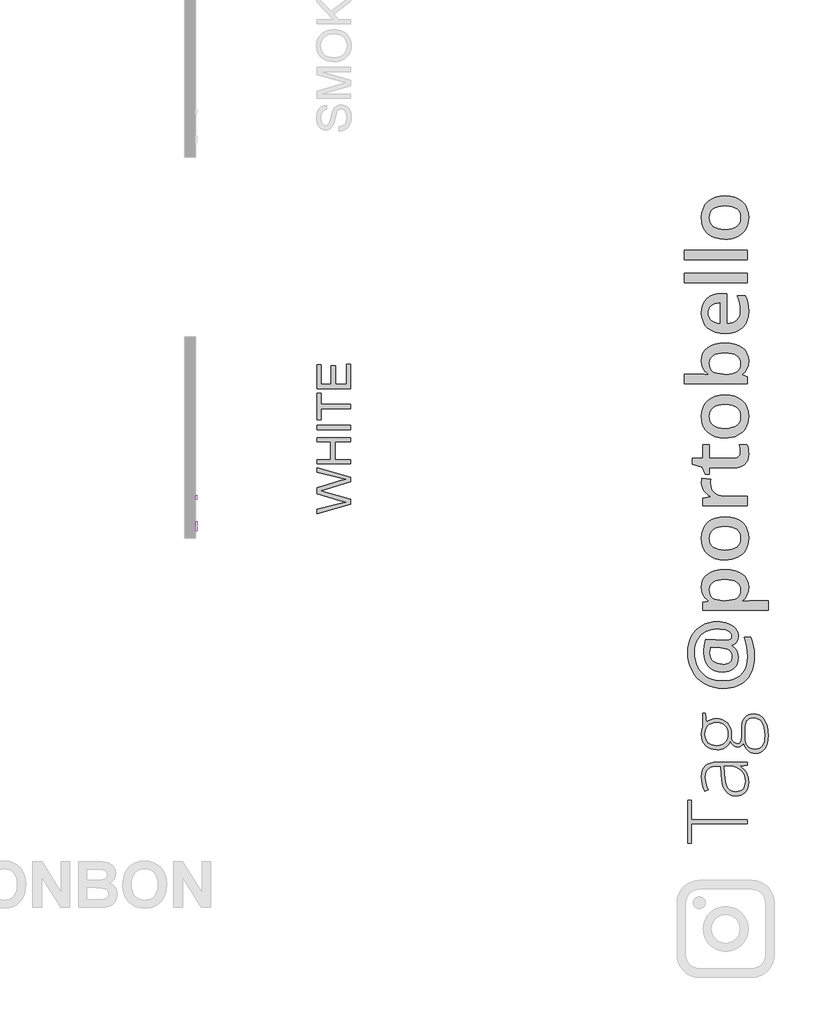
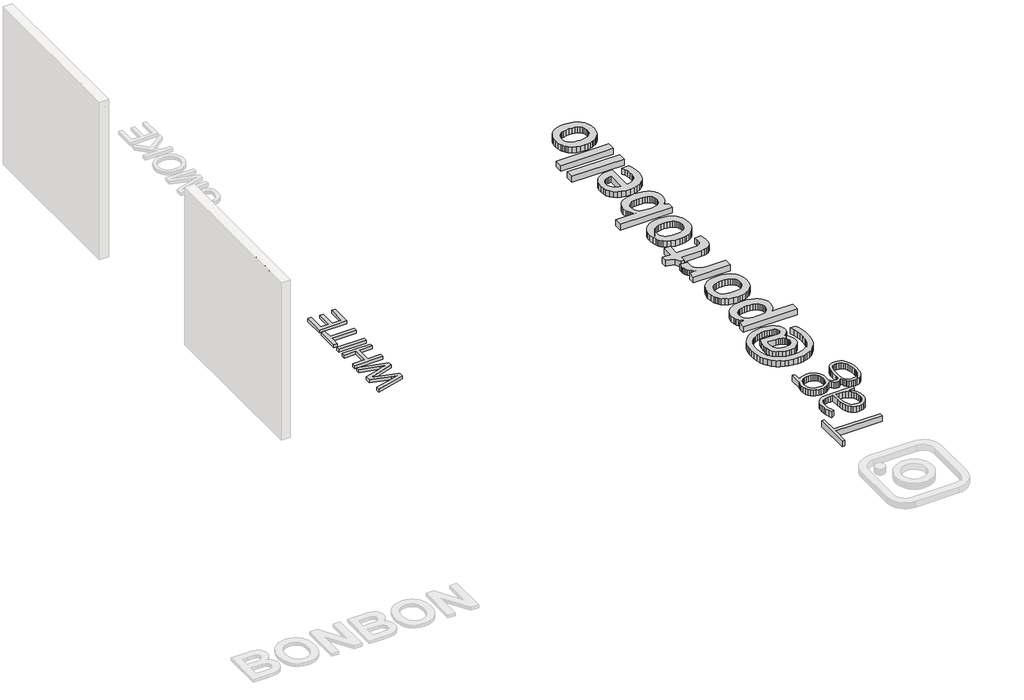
# One storey, part 2 of 6: 5 proxies.
"""IFC4 building model written with IfcOpenShell, lengths in millimetres."""

from ifc_helpers import new_model, si_unit, frame, origin, origin_with_axes, place, context, project, spatial, polyline, outline, extrude, element, save

model = new_model("IFC4")

# Units and contexts
model_context = context("Model", 3, world=origin())
ifc_project = project(units=[si_unit("LENGTHUNIT", "METRE", prefix="MILLI")], contexts=[model_context])

# Site, building, storey
site = spatial("IfcSite", under=ifc_project)
building = spatial("IfcBuilding", under=site)
storey = spatial("IfcBuildingStorey", under=building, Name="PORTOBELLO - SHOWROOM", Elevation=0.0)

# Proxies
placement = place(None, origin())
element("IfcBuildingElementProxy", 1, Name="10mm Arial", ObjectType="10mm Arial", at=placement, inside=storey, context=model_context, shape_type="SweptSolid", body=[
    extrude(outline(polyline([(-1354.0863326, 2478.2261649), (-1381.4812785, 2578.6824751), (-1368.5318323, 2578.6824751), (-1352.6393301, 2512.6599197), (-1347.7342368, 2492.2792572), (-1342.485787, 2510.3054749), (-1322.5711084, 2578.6824751), (-1303.9072285, 2578.6824751), (-1289.4372033, 2529.1165076), (-1278.6705236, 2492.2792572), (-1273.9125831, 2512.0713085), (-1257.8729281, 2578.6824751), (-1244.9234819, 2578.6824751), (-1272.3429533, 2478.2261649), (-1285.7583834, 2478.2261649), (-1309.8423913, 2555.7266386), (-1313.2023802, 2566.5423692), (-1316.979302, 2553.5193466), (-1338.9295944, 2478.2261649), (-1354.0863326, 2478.2261649)])), frame((-15793.2092306, 0.0, 0.0), z_axis=(1.0, 0.0, 0.0), x_axis=(0.0, 1.0, 0.0)), (0.0, 0.0, 1.0), 20.0),
    extrude(outline(polyline([(-1233.936073, 2478.2261649), (-1233.936073, 2578.6824751), (-1221.3790342, 2578.6824751), (-1221.3790342, 2541.7471228), (-1211.5872418, 2550.6130789), (-1199.5268437, 2553.5683975), (-1185.4247006, 2550.3432987), (-1176.8653128, 2541.4282917), (-1174.2901388, 2524.9226529), (-1174.2901388, 2478.2261649), (-1186.8471776, 2478.2261649), (-1186.8471776, 2523.6228031), (-1190.8448286, 2536.866555), (-1202.1755941, 2541.0113588), (-1212.4640272, 2538.2154556), (-1219.3311578, 2530.6370865), (-1221.3790342, 2517.4178602), (-1221.3790342, 2478.2261649), (-1233.936073, 2478.2261649)])), frame((-15793.2092306, 0.0, 0.0), z_axis=(1.0, 0.0, 0.0), x_axis=(0.0, 1.0, 0.0)), (0.0, 0.0, 1.0), 20.0),
    extrude(outline(polyline([(-15773.2092306, -1144.4671718), (-15773.2092306, -1157.0242105), (-15793.2092306, -1157.0242105), (-15793.2092306, -1144.4671718), (-15773.2092306, -1144.4671718)])), frame((0.0, 0.0, 2566.1254363), z_axis=(0.0, 0.0, 1.0), x_axis=(1.0, 0.0, 0.0)), (0.0, 0.0, 1.0), 12.5570388),
    extrude(outline(polyline([(-15773.2092306, -1144.4671718), (-15773.2092306, -1157.0242105), (-15793.2092306, -1157.0242105), (-15793.2092306, -1144.4671718), (-15773.2092306, -1144.4671718)])), frame((0.0, 0.0, 2478.2261649), z_axis=(0.0, 0.0, 1.0), x_axis=(1.0, 0.0, 0.0)), (0.0, 0.0, 1.0), 73.7726028),
    extrude(outline(polyline([(-1098.9479062, 2488.6985391), (-1097.3782764, 2477.8582829), (-1106.77153, 2476.6565351), (-1117.2929551, 2478.7411997), (-1122.5414048, 2484.2103787), (-1124.0619838, 2498.4596747), (-1124.0619838, 2539.4417289), (-1133.4797628, 2539.4417289), (-1133.4797628, 2551.9987677), (-1124.0619838, 2551.9987677), (-1124.0619838, 2569.9268836), (-1111.504945, 2577.309049), (-1111.504945, 2551.9987677), (-1098.9479062, 2551.9987677), (-1098.9479062, 2539.4417289), (-1111.504945, 2539.4417289), (-1111.504945, 2498.8275567), (-1110.8427574, 2492.3528336), (-1108.6967791, 2490.0597024), (-1104.4170852, 2489.2135739), (-1098.9479062, 2488.6985391)])), frame((-15793.2092306, 0.0, 0.0), z_axis=(1.0, 0.0, 0.0), x_axis=(0.0, 1.0, 0.0)), (0.0, 0.0, 1.0), 20.0),
    extrude(outline(polyline([(-1034.7402353, 2500.2009828), (-1022.4284512, 2498.6313529), (-1026.864495, 2489.3545953), (-1033.9431577, 2482.4200197), (-1043.5050239, 2478.0974062), (-1055.390678, 2476.6565351), (-1070.1243519, 2479.1428042), (-1081.4612487, 2486.6016117), (-1088.6901299, 2498.5485795), (-1091.099757, 2514.4993297), (-1088.6656045, 2530.9865744), (-1081.3631469, 2543.3167526), (-1070.1795342, 2551.0054863), (-1056.1019165, 2553.5683975), (-1042.4626915, 2551.0116177), (-1031.5641874, 2543.3412781), (-1024.4180797, 2531.0356253), (-1022.0360438, 2514.5729061), (-1022.1096202, 2511.1883917), (-1078.5427182, 2511.1883917), (-1076.3691488, 2501.7890067), (-1071.3199684, 2494.8789566), (-1064.0328392, 2490.6299195), (-1055.1454233, 2489.2135739), (-1042.8336392, 2491.8377988), (-1034.7402353, 2500.2009828)]), holes=[polyline([(-1078.5427182, 2523.7454305), (-1034.5930825, 2523.7454305), (-1039.6208031, 2535.1252469), (-1046.9416548, 2539.5398308), (-1056.1509675, 2541.0113588), (-1071.614274, 2536.314732), (-1076.4795134, 2530.8240932), (-1078.5427182, 2523.7454305)])]), frame((-15793.2092306, 0.0, 0.0), z_axis=(1.0, 0.0, 0.0), x_axis=(0.0, 1.0, 0.0)), (0.0, 0.0, 1.0), 20.0),
])
element("IfcBuildingElementProxy", 2, Name="10mm Arial Narrow", ObjectType="10mm Arial Narrow", at=placement, inside=storey, context=model_context, shape_type="SweptSolid", body=[
    extrude(outline(polyline([(-959.9284403, 2478.2261649), (-959.9284403, 2578.9447687), (-928.6315556, 2578.9447687), (-912.3358541, 2577.066448), (-900.862868, 2567.5860048), (-896.5731896, 2550.566896), (-898.359498, 2538.4910704), (-903.7184232, 2528.8646767), (-913.462212, 2522.5634182), (-928.4031112, 2520.4629988), (-950.1814787, 2520.4629988), (-950.1814787, 2478.2261649), (-959.9284403, 2478.2261649)]), holes=[polyline([(-950.1814787, 2531.834454), (-927.2101237, 2531.834454), (-911.3459283, 2536.3652682), (-906.3201512, 2550.033859), (-908.7949657, 2560.1996354), (-914.7725945, 2565.9995852), (-927.4385681, 2567.5733134), (-950.1814787, 2567.5733134), (-950.1814787, 2531.834454)])]), frame((-15793.2092306, 0.0, 0.0), z_axis=(1.0, 0.0, 0.0), x_axis=(0.0, 1.0, 0.0)), (0.0, 0.0, 1.0), 20.0),
    extrude(outline(polyline([(-888.4507215, 2514.7772711), (-886.4962527, 2531.3680467), (-880.632846, 2543.3201315), (-871.7742793, 2550.5446861), (-860.8343302, 2552.9528709), (-850.0212946, 2550.5446861), (-841.1373452, 2543.3201315), (-835.1977904, 2531.558417), (-833.2179388, 2515.5387525), (-835.1628892, 2498.3768659), (-840.9977403, 2486.2344108), (-849.8467884, 2479.0098562), (-860.8343302, 2476.6016713), (-871.6949583, 2479.0162019), (-880.5693893, 2486.2597935), (-886.4803885, 2498.218224), (-888.4507215, 2514.7772711)]), holes=[polyline([(-878.7037599, 2514.8026538), (-877.399723, 2502.2509024), (-873.4876124, 2493.3796444), (-867.6464157, 2488.1063858), (-860.5551203, 2486.348633), (-853.8350472, 2488.12225), (-848.1429739, 2493.4431012), (-844.2594188, 2502.3302234), (-842.9649005, 2514.8026538), (-844.2689373, 2527.3163312), (-848.1810479, 2536.1748979), (-854.0222447, 2541.4481564), (-861.11354, 2543.2059093), (-867.8812058, 2541.4386379), (-873.5637606, 2536.1368238), (-877.41876, 2527.2687386), (-878.7037599, 2514.8026538)])]), frame((-15793.2092306, 0.0, 0.0), z_axis=(1.0, 0.0, 0.0), x_axis=(0.0, 1.0, 0.0)), (0.0, 0.0, 1.0), 20.0),
    extrude(outline(polyline([(-761.74022, 2486.348633), (-760.1157264, 2476.6016713), (-767.4767131, 2476.6016713), (-775.7514774, 2478.7211278), (-780.0665386, 2484.5210777), (-781.2341433, 2499.1669029), (-781.2341433, 2541.5814157), (-789.3566114, 2541.5814157), (-789.3566114, 2544.8304029), (-790.981105, 2539.9569221), (-798.5451534, 2541.5814157), (-804.624313, 2539.2588975), (-808.4951767, 2532.7736144), (-810.4750283, 2517.3663078), (-810.4750283, 2478.2261649), (-820.22199, 2478.2261649), (-820.22199, 2551.3283773), (-810.4750283, 2551.3283773), (-810.4750283, 2541.6321811), (-804.230881, 2550.7191922), (-797.8344374, 2552.9528709), (-789.3566114, 2551.3283773), (-781.2341433, 2551.3283773), (-781.2341433, 2567.5733134), (-771.4871817, 2575.6957815), (-771.4871817, 2551.3283773), (-761.74022, 2551.3283773), (-761.74022, 2541.5814157), (-771.4871817, 2541.5814157), (-771.4871817, 2496.9332242), (-770.6241695, 2488.9376697), (-766.0045158, 2486.348633), (-761.74022, 2486.348633)])), frame((-15793.2092306, 0.0, 0.0), z_axis=(1.0, 0.0, 0.0), x_axis=(0.0, 1.0, 0.0)), (0.0, 0.0, 1.0), 20.0),
    extrude(outline(polyline([(-755.2422456, 2514.7772711), (-753.2877767, 2531.3680467), (-747.4243701, 2543.3201315), (-738.5658034, 2550.5446861), (-727.6258542, 2552.9528709), (-716.8128187, 2550.5446861), (-707.9288692, 2543.3201315), (-701.9893145, 2531.558417), (-700.0094629, 2515.5387525), (-701.9544133, 2498.3768659), (-707.7892643, 2486.2344108), (-716.6383125, 2479.0098562), (-727.6258542, 2476.6016713), (-738.4864824, 2479.0162019), (-747.3609133, 2486.2597935), (-753.2719125, 2498.218224), (-755.2422456, 2514.7772711)]), holes=[polyline([(-745.4952839, 2514.8026538), (-744.1912471, 2502.2509024), (-740.2791365, 2493.3796444), (-734.4379398, 2488.1063858), (-727.3466444, 2486.348633), (-720.6265712, 2488.12225), (-714.9344979, 2493.4431012), (-711.0509429, 2502.3302234), (-709.7564245, 2514.8026538), (-711.0604614, 2527.3163312), (-714.972572, 2536.1748979), (-720.8137687, 2541.4481564), (-727.9050641, 2543.2059093), (-734.6727298, 2541.4386379), (-740.3552846, 2536.1368238), (-744.2102841, 2527.2687386), (-745.4952839, 2514.8026538)])]), frame((-15793.2092306, 0.0, 0.0), z_axis=(1.0, 0.0, 0.0), x_axis=(0.0, 1.0, 0.0)), (0.0, 0.0, 1.0), 20.0),
    extrude(outline(polyline([(-677.2665524, 2478.2261649), (-687.013514, 2478.2261649), (-687.013514, 2578.9447687), (-677.2665524, 2578.9447687), (-677.2665524, 2543.5358846), (-669.8674916, 2550.6176614), (-660.6662583, 2552.9528709), (-647.7845316, 2548.752032), (-638.5071502, 2536.0226016), (-635.0297185, 2515.3356908), (-636.9619775, 2498.8813473), (-642.7587545, 2486.6786082), (-651.1318769, 2479.1209056), (-660.7931719, 2476.6016713), (-670.1340101, 2479.2160907), (-677.2665524, 2486.9832008), (-677.2665524, 2478.2261649)]), holes=[polyline([(-677.2665524, 2515.3356908), (-675.1851699, 2498.0881376), (-669.2963806, 2489.3564844), (-660.8439373, 2486.348633), (-654.9012097, 2488.1381142), (-649.6628524, 2493.5065579), (-644.7766802, 2514.9295674), (-649.4851734, 2536.3652682), (-654.7298764, 2541.495749), (-661.046999, 2543.2059093), (-667.0246278, 2541.4164281), (-672.3169234, 2536.0479843), (-677.2665524, 2515.3356908)])]), frame((-15793.2092306, 0.0, 0.0), z_axis=(1.0, 0.0, 0.0), x_axis=(0.0, 1.0, 0.0)), (0.0, 0.0, 1.0), 20.0),
    extrude(outline(polyline([(-583.0459231, 2500.9690755), (-573.2989614, 2499.3445819), (-576.9984918, 2489.4580153), (-582.8174786, 2482.3381644), (-590.5211319, 2478.0357946), (-599.8746615, 2476.6016713), (-611.4682155, 2479.0162019), (-620.6123378, 2486.2597935), (-626.5518925, 2498.0659277), (-628.5317441, 2514.168086), (-626.542374, 2530.8350097), (-620.5742637, 2543.0155389), (-611.5602279, 2550.4685379), (-600.4330812, 2552.9528709), (-589.750132, 2550.5542046), (-581.0026147, 2543.3582056), (-575.1677636, 2531.618701), (-573.2228133, 2515.5895179), (-573.2989614, 2512.3405307), (-618.7847825, 2512.3405307), (-612.7817709, 2492.8973728), (-606.8517347, 2487.9858179), (-599.747748, 2486.348633), (-589.5692802, 2490.0037436), (-583.0459231, 2500.9690755)]), holes=[polyline([(-618.1248319, 2522.0874924), (-583.0459231, 2522.0874924), (-587.3102188, 2536.3525769), (-593.1355513, 2541.4925762), (-600.3569331, 2543.2059093), (-612.5660179, 2537.4947989), (-618.1248319, 2522.0874924)])]), frame((-15793.2092306, 0.0, 0.0), z_axis=(1.0, 0.0, 0.0), x_axis=(0.0, 1.0, 0.0)), (0.0, 0.0, 1.0), 20.0),
    extrude(outline(polyline([(-15773.2092306, -550.5560509), (-15773.2092306, -560.3030125), (-15793.2092306, -560.3030125), (-15793.2092306, -550.5560509), (-15773.2092306, -550.5560509)])), frame((0.0, 0.0, 2478.2261649), z_axis=(0.0, 0.0, 1.0), x_axis=(1.0, 0.0, 0.0)), (0.0, 0.0, 1.0), 100.7186038),
    extrude(outline(polyline([(-15773.2092306, -524.5641531), (-15773.2092306, -534.3111148), (-15793.2092306, -534.3111148), (-15793.2092306, -524.5641531), (-15773.2092306, -524.5641531)])), frame((0.0, 0.0, 2478.2261649), z_axis=(0.0, 0.0, 1.0), x_axis=(1.0, 0.0, 0.0)), (0.0, 0.0, 1.0), 100.7186038),
    extrude(outline(polyline([(-513.1926979, 2514.7772711), (-511.238229, 2531.3680467), (-505.3748224, 2543.3201315), (-496.5162557, 2550.5446861), (-485.5763065, 2552.9528709), (-474.7632709, 2550.5446861), (-465.8793215, 2543.3201315), (-459.9397668, 2531.558417), (-457.9599152, 2515.5387525), (-459.9048655, 2498.3768659), (-465.7397166, 2486.2344108), (-474.5887648, 2479.0098562), (-485.5763065, 2476.6016713), (-496.4369347, 2479.0162019), (-505.3113656, 2486.2597935), (-511.2223648, 2498.218224), (-513.1926979, 2514.7772711)]), holes=[polyline([(-503.4457362, 2514.8026538), (-502.1416994, 2502.2509024), (-498.2295888, 2493.3796444), (-492.388392, 2488.1063858), (-485.2970967, 2486.348633), (-478.5770235, 2488.12225), (-472.8849502, 2493.4431012), (-469.0013952, 2502.3302234), (-467.7068768, 2514.8026538), (-469.0109137, 2527.3163312), (-472.9230243, 2536.1748979), (-478.764221, 2541.4481564), (-485.8555164, 2543.2059093), (-492.6231821, 2541.4386379), (-498.3057369, 2536.1368238), (-502.1607364, 2527.2687386), (-503.4457362, 2514.8026538)])]), frame((-15793.2092306, 0.0, 0.0), z_axis=(1.0, 0.0, 0.0), x_axis=(0.0, 1.0, 0.0)), (0.0, 0.0, 1.0), 20.0),
])
element("IfcBuildingElementProxy", 3, Name="450mm Arial", ObjectType="450mm Arial", at=placement, inside=storey, context=model_context, shape_type="SweptSolid", body=[
    extrude(outline(polyline([(-13720.1829319, -1020.7608304), (-14169.8390747, -1143.3843439), (-14169.8390747, -1085.4208567), (-13874.3131137, -1014.2838498), (-13783.086489, -992.3279834), (-13863.7742978, -968.8352064), (-14169.8390747, -879.6943891), (-14169.8390747, -796.1523176), (-13947.9750453, -731.3825119), (-13865.6405465, -703.6357858), (-13783.086489, -683.1893852), (-13871.6784097, -661.8921949), (-14169.8390747, -590.0965119), (-14169.8390747, -532.1330248), (-13720.1829319, -654.8663177), (-13720.1829319, -714.9156121), (-14067.0856202, -822.7189159), (-14115.4983055, -837.7586843), (-14057.2054804, -854.6647014), (-13720.1829319, -952.9172033), (-13720.1829319, -1020.7608304)])), origin_with_axes(), (0.0, 0.0, 1.0), 50.0),
    extrude(outline(polyline([(-13720.1829319, -475.9260069), (-14169.8390747, -475.9260069), (-14169.8390747, -419.7189891), (-13987.1662667, -419.7189891), (-13987.1662667, -180.8391632), (-14169.8390747, -180.8391632), (-14169.8390747, -124.6321453), (-13720.1829319, -124.6321453), (-13720.1829319, -180.8391632), (-13930.9592489, -180.8391632), (-13930.9592489, -419.7189891), (-13720.1829319, -419.7189891), (-13720.1829319, -475.9260069)])), origin_with_axes(), (0.0, 0.0, 1.0), 50.0),
    extrude(outline(polyline([(-13720.1829319, -19.2439869), (-14169.8390747, -19.2439869), (-14169.8390747, 36.963031), (-13720.1829319, 36.963031), (-13720.1829319, -19.2439869)])), origin_with_axes(), (0.0, 0.0, 1.0), 50.0),
    extrude(outline(polyline([(-13720.1829319, 261.7911024), (-14113.6320569, 261.7911024), (-14113.6320569, 114.2476805), (-14169.8390747, 114.2476805), (-14169.8390747, 465.5415421), (-14113.6320569, 465.5415421), (-14113.6320569, 317.9981202), (-13720.1829319, 317.9981202), (-13720.1829319, 261.7911024)])), origin_with_axes(), (0.0, 0.0, 1.0), 50.0),
    extrude(outline(polyline([(-13720.1829319, 528.7744372), (-14169.8390747, 528.7744372), (-14169.8390747, 851.9647898), (-14113.6320569, 851.9647898), (-14113.6320569, 584.981455), (-13980.1403895, 584.981455), (-13980.1403895, 837.9130354), (-13923.9333716, 837.9130354), (-13923.9333716, 584.981455), (-13776.3899498, 584.981455), (-13776.3899498, 858.9906671), (-13720.1829319, 858.9906671), (-13720.1829319, 528.7744372)])), origin_with_axes(), (0.0, 0.0, 1.0), 50.0),
])
element("IfcBuildingElementProxy", 4, Name="80mm OpenSans Bold", ObjectType="80mm OpenSans Bold", at=placement, inside=storey, context=model_context, shape_type="SweptSolid", body=[
    extrude(outline(polyline([(-8808.2375596, -2589.9050274), (-8770.1319449, -2591.4523873), (-8733.6938734, -2596.0944669), (-8698.9233451, -2603.8312662), (-8665.8203599, -2614.6627853), (-8635.3388727, -2628.3035888), (-8608.4328384, -2644.4682415), (-8585.1022571, -2663.1567432), (-8565.3471287, -2684.369094), (-8549.6256519, -2707.7146983), (-8538.3960257, -2732.8029603), (-8531.6582499, -2759.63388), (-8529.4123247, -2788.2074574), (-8535.121031, -2828.8294097), (-8542.2569139, -2846.9770867), (-8552.2471499, -2863.6825641), (-8564.6710976, -2878.3599485), (-8579.1081155, -2890.4233463), (-8595.5582034, -2899.8727576), (-8614.0213615, -2906.7081822), (-8614.0213615, -2913.4384465), (-8577.0049079, -2943.6044526), (-8550.5645839, -2980.2603563), (-8534.7003895, -3022.6249663), (-8529.4123247, -3069.9170913), (-8532.9652432, -3112.5821596), (-8543.6239988, -3150.4398962), (-8561.3885915, -3183.4903012), (-8586.2590213, -3211.7333746), (-8617.1987072, -3234.3428562), (-8653.1710685, -3250.4924859), (-8694.1761051, -3260.1822637), (-8740.2138169, -3263.4121897), (-8793.3573659, -3259.1306599), (-8841.2579188, -3246.2860707), (-8883.9154756, -3224.878422), (-8921.3300363, -3194.9077139), (-8951.7739662, -3157.7260082), (-8973.5196304, -3114.6853672), (-8986.5670289, -3065.7857907), (-8990.9161618, -3011.0272788), (-8989.0833666, -2966.7096902), (-8983.584981, -2917.8852283), (-8974.8416466, -2869.6616828), (-8963.2740049, -2827.1468437), (-8712.0909269, -2839.4055393), (-8699.351498, -2839.4055393), (-8661.4937614, -2835.8000406), (-8634.4525209, -2824.9835444), (-8624.9880868, -2816.8711723), (-8618.2277767, -2806.9560508), (-8612.8195286, -2781.7175597), (-8616.2823096, -2760.9634076), (-8626.6706528, -2742.4476694), (-8643.9845582, -2726.1703449), (-8668.2240257, -2712.1314342), (-8697.8266725, -2700.8266934), (-8731.2301159, -2692.7518786), (-8768.4343559, -2687.9069897), (-8809.4393925, -2686.2920267), (-8854.530661, -2688.7107154), (-8896.7825992, -2695.9667816), (-8936.1952071, -2708.0602253), (-8972.7684849, -2724.9910464), (-9005.9090273, -2746.3836722), (-9035.0234296, -2771.8625298), (-9060.1116915, -2801.4276194), (-9081.1738133, -2835.0789409), (-9097.8417334, -2872.0803715), (-9109.7473907, -2911.6957888), (-9116.890785, -2953.9251927), (-9119.2719165, -2998.7685831), (-9116.2823571, -3055.7429744), (-9107.313679, -3108.8865234), (-9092.3658822, -3158.1992299), (-9071.4389667, -3203.6810941), (-9044.9610854, -3244.6711078), (-9013.3603914, -3280.5082628), (-8976.6368845, -3311.1925593), (-8934.7905649, -3336.7239971), (-8888.6026239, -3356.8096296), (-8838.854253, -3371.15651), (-8785.545452, -3379.7646382), (-8728.676221, -3382.6340143), (-8654.5005961, -3377.2783464), (-8589.4138327, -3361.2113427), (-8560.2787739, -3349.1610899), (-8533.4159306, -3334.4330032), (-8508.8253025, -3317.0270825), (-8486.5068898, -3296.9433278), (-8466.6484789, -3274.3582585), (-8449.437856, -3249.4483936), (-8434.8750213, -3222.2137331), (-8422.9599747, -3192.6542772), (-8407.073246, -3126.5609786), (-8401.7776697, -3051.1684979), (-8404.8723895, -2989.454378), (-8414.1565487, -2926.418242), (-8429.6301474, -2862.0600897), (-8451.2931856, -2796.3799212), (-8361.1557174, -2796.3799212), (-8340.544283, -2855.6002378), (-8325.8218299, -2917.4044951), (-8316.988358, -2981.7926932), (-8314.0438674, -3048.7648321), (-8315.7395785, -3098.3798747), (-8320.8267118, -3145.1893887), (-8329.3052674, -3189.1933739), (-8341.1752453, -3230.3918305), (-8356.4366454, -3268.7847584), (-8375.0894677, -3304.3721575), (-8397.1337122, -3337.154028), (-8422.569379, -3367.1303697), (-8451.0396739, -3393.9180986), (-8482.1878028, -3417.1341302), (-8516.0137656, -3436.7784647), (-8552.5175624, -3452.851102), (-8591.6991931, -3465.3520421), (-8633.5586577, -3474.281285), (-8678.0959563, -3479.6388308), (-8725.3110889, -3481.4246794), (-8794.3789239, -3477.5637912), (-8859.525779, -3465.9811265), (-8920.7516543, -3446.6766854), (-8978.0565497, -3419.6504679), (-9030.1560063, -3385.7738027), (-9075.7655652, -3345.9180189), (-9114.8852264, -3300.0831163), (-9147.5149898, -3248.269095), (-9173.2267026, -3191.6477421), (-9191.5922118, -3131.3908446), (-9202.6115173, -3067.4984026), (-9206.2846191, -2999.970416), (-9203.2199452, -2941.749123), (-9194.0259234, -2886.7878018), (-9178.7025538, -2835.0864523), (-9157.2498364, -2786.6450746), (-9130.1334814, -2742.4626923), (-9097.8191991, -2703.5383289), (-9060.3069894, -2669.8719846), (-9017.5968524, -2641.4636592), (-8970.5300711, -2618.9067578), (-8919.9479285, -2602.7946853), (-8865.8504247, -2593.1274419), (-8808.2375596, -2589.9050274)]), holes=[polyline([(-8738.2908843, -3158.1316268), (-8708.8835353, -3156.542954), (-8683.3971662, -3151.7769353), (-8661.8317769, -3143.8335709), (-8644.1873675, -3132.7128608), (-8630.463938, -3118.4148049), (-8620.6614883, -3100.9394033), (-8614.7800185, -3080.2866559), (-8612.8195286, -3056.4565627), (-8615.283286, -3031.1730029), (-8622.6745584, -3008.9240712), (-8634.9933457, -2989.7097675), (-8652.239648, -2973.530092), (-8674.4134652, -2960.3850445), (-8701.5147973, -2950.2746252), (-8733.5436443, -2943.1988339), (-8770.5000062, -2939.1576708), (-8899.0961275, -2932.4274065), (-8905.9465751, -2968.7227604), (-8908.2300576, -3007.42178), (-8905.368193, -3041.0355442), (-8896.7825992, -3070.7283285), (-8882.4732761, -3096.500133), (-8862.4402238, -3118.3509575), (-8837.5097024, -3135.7550004), (-8808.507972, -3148.1864595), (-8775.4350326, -3155.645335), (-8738.2908843, -3158.1316268)])]), origin_with_axes(), (0.0, 0.0, 1.0), 100.0),
    extrude(outline(polyline([(-8390.9611735, -2131.2855893), (-8396.1591009, -2184.8422683), (-8411.7528829, -2232.0592787), (-8437.7425195, -2272.9366205), (-8474.1280109, -2307.4742937), (-8474.1280109, -2315.1660244), (-8380.1446774, -2307.4742937), (-8129.4423325, -2307.4742937), (-8129.4423325, -2436.3107816), (-9006.299623, -2436.3107816), (-9006.299623, -2331.9916851), (-8929.1419503, -2313.9641914), (-8929.1419503, -2307.4742937), (-8950.8312785, -2291.6439009), (-8969.6286964, -2273.9581785), (-8985.5342038, -2254.4171265), (-8998.5478008, -2233.020745), (-9008.6694873, -2209.769034), (-9015.8992634, -2184.6619933), (-9021.6830843, -2128.8819234), (-9016.5227142, -2076.07639), (-9001.041604, -2029.4302502), (-8975.2397538, -1988.9435041), (-8939.1171634, -1954.6161516), (-8893.680368, -1927.2744529), (-8839.9359026, -1907.7446682), (-8777.8837672, -1896.0267973), (-8707.5239618, -1892.1208403), (-8636.991393, -1896.0944004), (-8574.6613337, -1908.0150806), (-8520.5337841, -1927.8828808), (-8474.608744, -1955.6978012), (-8438.0129319, -1990.5133983), (-8411.8730662, -2031.3832287), (-8396.1891467, -2078.3072923), (-8390.9611735, -2131.2855893)]), holes=[polyline([(-8913.9988556, -2162.7736115), (-8911.2045941, -2197.859621), (-8902.8218095, -2227.8829093), (-8888.850502, -2252.8434766), (-8869.2906714, -2272.7413227), (-8843.6014929, -2287.9369975), (-8811.2421419, -2298.791051), (-8772.2126181, -2305.303483), (-8726.5129218, -2307.4742937), (-8707.5239618, -2307.4742937), (-8656.1756508, -2305.3260174), (-8612.4589787, -2298.8811884), (-8576.3739456, -2288.1398068), (-8547.9205515, -2273.1018725), (-8526.3626737, -2253.1814921), (-8510.9641895, -2227.7927719), (-8501.725099, -2196.9357119), (-8498.6454022, -2160.6103122), (-8502.0556031, -2129.6856492), (-8512.2862057, -2102.5317369), (-8529.3372101, -2079.1485754), (-8553.2086163, -2059.5361646), (-8583.3746223, -2044.0250086), (-8619.3094263, -2032.9456115), (-8661.0130282, -2026.2979732), (-8708.4854281, -2024.0820938), (-8756.1155686, -2026.2829503), (-8797.5712925, -2032.8855198), (-8832.8525999, -2043.8898024), (-8861.9594906, -2059.295798), (-8884.7267128, -2078.9683004), (-8900.9890144, -2102.7721035), (-8910.7463953, -2130.7072072), (-8913.9988556, -2162.7736115)])]), origin_with_axes(), (0.0, 0.0, 1.0), 100.0),
    extrude(outline(polyline([(-8707.5239618, -1184.0008903), (-8636.991393, -1188.8082219), (-8574.6613337, -1203.2302168), (-8520.5337841, -1227.266875), (-8474.608744, -1260.9181964), (-8455.0038447, -1281.0902107), (-8438.0129319, -1303.1476003), (-8423.6360058, -1327.0903653), (-8411.8730662, -1352.9185056), (-8396.1891467, -1410.2309125), (-8390.9611735, -1475.0848209), (-8393.3723508, -1516.7358426), (-8400.6058826, -1555.8780382), (-8412.661769, -1592.5114075), (-8429.5400099, -1626.6359507), (-8450.9176128, -1657.6131939), (-8476.471585, -1684.8046635), (-8506.2019266, -1708.2103594), (-8540.1086376, -1727.8302817), (-8577.5682671, -1743.3414376), (-8617.9573643, -1754.4208348), (-8661.2759292, -1761.068473), (-8707.5239618, -1763.2843525), (-8777.4931715, -1758.5145781), (-8839.3349861, -1744.205255), (-8893.0494057, -1720.3563833), (-8938.6364302, -1686.9679627), (-8958.1004898, -1666.9104982), (-8974.9693414, -1644.8962995), (-8989.242985, -1620.9253665), (-9000.9214208, -1594.9976994), (-9016.4926684, -1537.2721625), (-9021.6830843, -1471.7196887), (-9016.3649736, -1408.8262703), (-9000.4106418, -1352.8283682), (-8973.8200887, -1303.7259824), (-8936.5933143, -1261.5191129), (-8890.367816, -1227.6048905), (-8836.7810912, -1203.3804459), (-8775.8331398, -1188.8457792), (-8707.5239618, -1184.0008903)]), holes=[polyline([(-8707.5239618, -1630.6019993), (-8658.5680494, -1628.1382418), (-8616.139592, -1620.7469694), (-8580.2385895, -1608.4281821), (-8550.8650421, -1591.1818799), (-8528.0189496, -1569.0080627), (-8511.7003122, -1541.9067306), (-8501.9091297, -1509.8778836), (-8498.6454022, -1472.9215216), (-8501.9091297, -1436.3031752), (-8511.7003122, -1404.5672749), (-8528.0189496, -1377.7138209), (-8550.8650421, -1355.742813), (-8580.2385895, -1338.6542513), (-8616.139592, -1326.4481358), (-8658.5680494, -1319.1244665), (-8707.5239618, -1316.6832434), (-8755.916515, -1319.1394894), (-8797.8567278, -1326.5082275), (-8833.3446002, -1338.7894575), (-8862.3801322, -1355.9831796), (-8884.9633237, -1378.0893936), (-8901.0941747, -1405.1080997), (-8910.7726854, -1437.0392978), (-8913.9988556, -1473.882988), (-8910.6637693, -1512.2740379), (-8900.6585103, -1545.0014503), (-8883.9830787, -1572.0652252), (-8860.6374744, -1593.4653624), (-8831.057362, -1609.7126411), (-8795.6784057, -1621.3178401), (-8754.5006056, -1628.2809595), (-8707.5239618, -1630.6019993)])]), origin_with_axes(), (0.0, 0.0, 1.0), 100.0),
    extrude(outline(polyline([(-9021.6830843, -733.3135493), (-9020.3009764, -698.6406699), (-9016.1546529, -670.5778715), (-8895.971362, -682.8365671), (-8901.0190602, -710.2383575), (-8902.7016263, -738.6016141), (-8899.5618378, -774.6566014), (-8890.1424724, -807.10609), (-8874.44353, -835.9500798), (-8852.4650107, -861.1885709), (-8825.4688389, -881.6948449), (-8794.7169394, -896.3421835), (-8760.209312, -905.1305866), (-8721.9459567, -908.0600543), (-8406.3446348, -908.0600543), (-8406.3446348, -1036.8965422), (-9006.299623, -1036.8965422), (-9006.299623, -935.9425778), (-8904.1438257, -918.8765505), (-8904.1438257, -912.3866528), (-8929.7879354, -896.5900615), (-8952.6377836, -878.5250106), (-8972.6933703, -858.1915), (-8989.9546955, -835.5895299), (-9003.8358656, -811.3951311), (-9013.7509871, -786.2843348), (-9019.70006, -760.2571409), (-9021.6830843, -733.3135493)])), origin_with_axes(), (0.0, 0.0, 1.0), 100.0),
    extrude(outline(polyline([(-8498.6454022, -314.3545972), (-8502.3109926, -266.4615558), (-8513.3077637, -218.4483311), (-8413.5556322, -218.4483311), (-8404.7221603, -243.206089), (-8397.4510712, -274.213378), (-8392.583648, -308.9463491), (-8390.9611735, -344.8811531), (-8393.9958016, -388.2598097), (-8403.0996859, -425.8546453), (-8418.2728264, -457.6656602), (-8439.5152231, -483.6928541), (-8466.8268759, -503.9362272), (-8500.207785, -518.3957794), (-8539.6579502, -527.0715107), (-8585.1773717, -529.9634211), (-8913.9988556, -529.9634211), (-8913.9988556, -613.6109916), (-8968.0813365, -613.6109916), (-9012.7895207, -523.9542566), (-9144.7507742, -479.9671721), (-9144.7507742, -400.4058335), (-9006.299623, -400.4058335), (-9006.299623, -224.6978622), (-8913.9988556, -224.6978622), (-8913.9988556, -400.4058335), (-8589.5039701, -400.4058335), (-8567.8183976, -398.9260767), (-8549.1524302, -394.4868064), (-8533.506068, -387.0880226), (-8520.879311, -376.7297252), (-8511.1519759, -363.9527391), (-8504.2038794, -349.297889), (-8498.6454022, -314.3545972)])), origin_with_axes(), (0.0, 0.0, 1.0), 100.0),
    extrude(outline(polyline([(-8707.5239618, 446.6460009), (-8636.991393, 441.8386692), (-8574.6613337, 427.4166743), (-8520.5337841, 403.3800161), (-8474.608744, 369.7286947), (-8455.0038447, 349.5566805), (-8438.0129319, 327.4992908), (-8423.6360058, 303.5565259), (-8411.8730662, 277.7283855), (-8396.1891467, 220.4159786), (-8390.9611735, 155.5620703), (-8393.3723508, 113.9110485), (-8400.6058826, 74.768853), (-8412.661769, 38.1354836), (-8429.5400099, 4.0109404), (-8450.9176128, -26.9663028), (-8476.471585, -54.1577724), (-8506.2019266, -77.5634683), (-8540.1086376, -97.1833905), (-8577.5682671, -112.6945465), (-8617.9573643, -123.7739436), (-8661.2759292, -130.4215819), (-8707.5239618, -132.6374613), (-8777.4931715, -127.867687), (-8839.3349861, -113.5583639), (-8893.0494057, -89.7094921), (-8938.6364302, -56.3210716), (-8958.1004898, -36.2636071), (-8974.9693414, -14.2494083), (-8989.242985, 9.7215246), (-9000.9214208, 35.6491918), (-9016.4926684, 93.3747287), (-9021.6830843, 158.9272024), (-9016.3649736, 221.8206208), (-9000.4106418, 277.818523), (-8973.8200887, 326.9209088), (-8936.5933143, 369.1277782), (-8890.367816, 403.0420006), (-8836.7810912, 427.2664452), (-8775.8331398, 441.801112), (-8707.5239618, 446.6460009)]), holes=[polyline([(-8707.5239618, 0.0448918), (-8658.5680494, 2.5086493), (-8616.139592, 9.8999217), (-8580.2385895, 22.218709), (-8550.8650421, 39.4650113), (-8528.0189496, 61.6388284), (-8511.7003122, 88.7401605), (-8501.9091297, 120.7690076), (-8498.6454022, 157.7253695), (-8501.9091297, 194.343716), (-8511.7003122, 226.0796162), (-8528.0189496, 252.9330703), (-8550.8650421, 274.9040782), (-8580.2385895, 291.9926398), (-8616.139592, 304.1987553), (-8658.5680494, 311.5224246), (-8707.5239618, 313.9636477), (-8755.916515, 311.5074017), (-8797.8567278, 304.1386637), (-8833.3446002, 291.8574336), (-8862.3801322, 274.6637116), (-8884.9633237, 252.5574975), (-8901.0941747, 225.5387914), (-8910.7726854, 193.6075933), (-8913.9988556, 156.7639032), (-8910.6637693, 118.3728532), (-8900.6585103, 85.6454408), (-8883.9830787, 58.581666), (-8860.6374744, 37.1815287), (-8831.057362, 20.9342501), (-8795.6784057, 9.3290511), (-8754.5006056, 2.3659316), (-8707.5239618, 0.0448918)])]), origin_with_axes(), (0.0, 0.0, 1.0), 100.0),
    extrude(outline(polyline([(-9021.6830843, 901.6599403), (-9016.5227142, 954.4654737), (-9001.041604, 1001.1116135), (-8975.2397538, 1041.5983596), (-8939.1171634, 1075.9257121), (-8893.680368, 1103.2674108), (-8839.9359026, 1122.7971956), (-8777.8837672, 1134.5150664), (-8707.5239618, 1138.4210234), (-8636.7960951, 1134.4699977), (-8574.3608755, 1122.6169206), (-8520.2183029, 1102.8617922), (-8474.3683774, 1075.2046124), (-8437.8777257, 1040.51671), (-8411.8129745, 999.669414), (-8396.1741238, 952.6627244), (-8390.9611735, 899.496641), (-8396.1591009, 845.8348016), (-8411.7528829, 798.5426767), (-8437.7425195, 757.6202661), (-8474.1280109, 723.06757), (-8474.1280109, 714.414373), (-8406.3446348, 690.858448), (-8406.3446348, 594.2310821), (-9252.4350028, 594.2310821), (-9252.4350028, 723.06757), (-9052.4500067, 723.06757), (-8986.46938, 720.9042707), (-8930.8245163, 717.7795052), (-8930.8245163, 723.06757), (-8952.1194932, 739.1082836), (-8970.5751398, 756.9442351), (-8986.1914562, 776.5754245), (-8998.9684423, 798.0018519), (-9008.9060981, 821.2235171), (-9016.0044238, 846.2404203), (-9021.6830843, 901.6599403)]), holes=[polyline([(-8913.9988556, 867.7682522), (-8911.1520139, 832.224044), (-8902.6114888, 802.0279921), (-8888.3772803, 777.1800967), (-8868.4493883, 757.6803578), (-8841.8513238, 742.897813), (-8807.6065973, 732.2015001), (-8765.715209, 725.5914191), (-8716.1771588, 723.06757), (-8707.5239618, 723.06757), (-8656.1756508, 725.2158463), (-8612.4589787, 731.6606753), (-8576.3739456, 742.4020569), (-8547.9205515, 757.4399912), (-8526.3626737, 777.3603716), (-8510.9641895, 802.7490919), (-8501.725099, 833.6061518), (-8498.6454022, 869.9315515), (-8502.0180458, 901.4421081), (-8512.1359766, 928.9115015), (-8528.9991946, 952.3397318), (-8552.6076998, 971.7267989), (-8582.5859194, 986.9224737), (-8618.5582807, 997.7765272), (-8660.5247836, 1004.2889593), (-8708.4854281, 1006.45977), (-8756.6526377, 1004.292715), (-8798.3975527, 997.7915501), (-8833.720173, 986.9562753), (-8862.6204987, 971.7868905), (-8885.0985299, 952.2833958), (-8901.1542664, 928.4457912), (-8910.7877083, 900.2740767), (-8913.9988556, 867.7682522)])]), origin_with_axes(), (0.0, 0.0, 1.0), 100.0),
    extrude(outline(polyline([(-8390.9611735, 1567.2350054), (-8396.1365665, 1500.4206071), (-8411.6627454, 1441.3129623), (-8423.3073796, 1414.6491725), (-8437.5397102, 1389.9120711), (-8454.3597374, 1367.101658), (-8473.767461, 1346.2179334), (-8519.0840731, 1311.3572676), (-8572.2276221, 1286.456792), (-8633.1981078, 1271.5165066), (-8701.9955304, 1266.5364115), (-8772.5280993, 1271.1559567), (-8835.0985251, 1285.0145925), (-8889.7068079, 1308.1123187), (-8936.3529477, 1340.4491354), (-8973.6848825, 1380.8682784), (-9000.3505501, 1428.2129836), (-9016.3499507, 1482.4832509), (-9021.6830843, 1543.6790803), (-9017.1912338, 1600.3980822), (-9003.7156823, 1650.85253), (-8981.2564298, 1695.0424238), (-8949.8134763, 1732.9677635), (-8910.4985173, 1763.4116934), (-8864.4232481, 1785.1573576), (-8811.5876688, 1798.2047561), (-8751.9917794, 1802.553889), (-8683.246937, 1802.553889), (-8683.246937, 1399.2187647), (-8641.3480372, 1403.1848133), (-8604.5869731, 1412.4389267), (-8572.9637447, 1426.9811049), (-8546.478352, 1446.8113479), (-8525.5514365, 1471.5691058), (-8510.6036396, 1500.8938288), (-8501.6349616, 1534.7855168), (-8498.6454022, 1573.2441699), (-8501.1692513, 1625.0131225), (-8508.7407986, 1673.1164847), (-8522.2013272, 1721.0996636), (-8542.3921201, 1772.5080662), (-8434.4675249, 1772.5080662), (-8414.1565487, 1725.1258038), (-8400.8162034, 1677.2027166), (-8393.424931, 1625.6140389), (-8390.9611735, 1567.2350054)]), holes=[polyline([(-8929.3823168, 1543.4387138), (-8926.9260708, 1514.4219605), (-8919.5573328, 1488.4248123), (-8907.2761028, 1465.4472694), (-8890.0823807, 1445.4893317), (-8868.1864874, 1428.8965261), (-8841.7987436, 1416.0143796), (-8810.9191493, 1406.8428922), (-8775.5477045, 1401.3820639), (-8775.5477045, 1675.8807004), (-8811.1144471, 1673.1690649), (-8842.0992018, 1666.2359913), (-8868.5019685, 1655.0814796), (-8890.3227473, 1639.7055298), (-8907.411309, 1620.5738522), (-8919.6174245, 1598.152157), (-8926.9410937, 1572.4404442), (-8929.3823168, 1543.4387138)])]), origin_with_axes(), (0.0, 0.0, 1.0), 100.0),
    extrude(outline(polyline([(-8406.3446348, 2076.3314257), (-8406.3446348, 1947.4949378), (-9252.4350028, 1947.4949378), (-9252.4350028, 2076.3314257), (-8406.3446348, 2076.3314257)])), origin_with_axes(), (0.0, 0.0, 1.0), 100.0),
    extrude(outline(polyline([(-8406.3446348, 2384.0006504), (-8406.3446348, 2255.1641626), (-9252.4350028, 2255.1641626), (-9252.4350028, 2384.0006504), (-8406.3446348, 2384.0006504)])), origin_with_axes(), (0.0, 0.0, 1.0), 100.0),
    extrude(outline(polyline([(-8707.5239618, 3107.9847949), (-8636.991393, 3103.1774633), (-8574.6613337, 3088.7554684), (-8520.5337841, 3064.7188102), (-8474.608744, 3031.0674887), (-8455.0038447, 3010.8954745), (-8438.0129319, 2988.8380849), (-8423.6360058, 2964.8953199), (-8411.8730662, 2939.0671795), (-8396.1891467, 2881.7547727), (-8390.9611735, 2816.9008643), (-8393.3723508, 2775.2498425), (-8400.6058826, 2736.107647), (-8412.661769, 2699.4742776), (-8429.5400099, 2665.3497345), (-8450.9176128, 2634.3724912), (-8476.471585, 2607.1810217), (-8506.2019266, 2583.7753257), (-8540.1086376, 2564.1554035), (-8577.5682671, 2548.6442475), (-8617.9573643, 2537.5648504), (-8661.2759292, 2530.9172121), (-8707.5239618, 2528.7013327), (-8777.4931715, 2533.471107), (-8839.3349861, 2547.7804301), (-8893.0494057, 2571.6293019), (-8938.6364302, 2605.0177224), (-8958.1004898, 2625.075187), (-8974.9693414, 2647.0893857), (-8989.242985, 2671.0603186), (-9000.9214208, 2696.9879858), (-9016.4926684, 2754.7135227), (-9021.6830843, 2820.2659964), (-9016.3649736, 2883.1594149), (-9000.4106418, 2939.157317), (-8973.8200887, 2988.2597028), (-8936.5933143, 3030.4665723), (-8890.367816, 3064.3807947), (-8836.7810912, 3088.6052392), (-8775.8331398, 3103.139906), (-8707.5239618, 3107.9847949)]), holes=[polyline([(-8707.5239618, 2661.3836859), (-8658.5680494, 2663.8474433), (-8616.139592, 2671.2387157), (-8580.2385895, 2683.557503), (-8550.8650421, 2700.8038053), (-8528.0189496, 2722.9776225), (-8511.7003122, 2750.0789546), (-8501.9091297, 2782.1078016), (-8498.6454022, 2819.0641635), (-8501.9091297, 2855.68251), (-8511.7003122, 2887.4184102), (-8528.0189496, 2914.2718643), (-8550.8650421, 2936.2428722), (-8580.2385895, 2953.3314339), (-8616.139592, 2965.5375493), (-8658.5680494, 2972.8612186), (-8707.5239618, 2975.3024417), (-8755.916515, 2972.8461957), (-8797.8567278, 2965.4774577), (-8833.3446002, 2953.1962277), (-8862.3801322, 2936.0025056), (-8884.9633237, 2913.8962915), (-8901.0941747, 2886.8775854), (-8910.7726854, 2854.9463873), (-8913.9988556, 2818.1026972), (-8910.6637693, 2779.7116472), (-8900.6585103, 2746.9842348), (-8883.9830787, 2719.92046), (-8860.6374744, 2698.5203228), (-8831.057362, 2682.2730441), (-8795.6784057, 2670.6678451), (-8754.5006056, 2663.7047257), (-8707.5239618, 2661.3836859)])]), origin_with_axes(), (0.0, 0.0, 1.0), 100.0),
])
element("IfcBuildingElementProxy", 5, Name="80mm OpenSans Light", ObjectType="80mm OpenSans Light", at=placement, inside=storey, context=model_context, shape_type="SweptSolid", body=[
    extrude(outline(polyline([(-8406.3446348, -5239.7446899), (-8406.3446348, -5296.2308367), (-9160.1342354, -5296.2308367), (-9160.1342354, -5554.8652787), (-9206.2846191, -5554.8652787), (-9206.2846191, -4981.3506145), (-9160.1342354, -4981.3506145), (-9160.1342354, -5239.7446899), (-8406.3446348, -5239.7446899)])), origin_with_axes(), (0.0, 0.0, 1.0), 100.0),
    extrude(outline(polyline([(-8406.3446348, -4509.7513809), (-8502.0105343, -4523.4522761), (-8502.0105343, -4527.7788746), (-8473.8350641, -4550.6512571), (-8450.1213985, -4573.8391208), (-8430.8695376, -4597.3424656), (-8416.0794813, -4621.1612916), (-8405.0902217, -4646.2270192), (-8397.2407505, -4673.471069), (-8392.5310678, -4702.8934409), (-8390.9611735, -4734.4941349), (-8393.853084, -4776.3780118), (-8402.5288153, -4813.3343738), (-8416.9883675, -4845.3632208), (-8437.2317405, -4872.4645529), (-8462.5829035, -4894.0224307), (-8492.3658252, -4909.4209149), (-8526.5805059, -4918.6600054), (-8565.2269454, -4921.7397022), (-8607.4488378, -4917.1502028), (-8644.6981465, -4903.3817045), (-8676.9748715, -4880.4342074), (-8704.279013, -4848.3077114), (-8726.1749063, -4807.4979727), (-8742.2268871, -4758.5007473), (-8752.4349553, -4701.3160352), (-8756.7991111, -4635.9438364), (-8760.1642432, -4521.2889769), (-8800.545829, -4521.2889769), (-8841.1677813, -4523.467299), (-8876.5016688, -4530.0022654), (-8906.5474916, -4540.8938762), (-8931.3052495, -4556.1421312), (-8950.6547593, -4576.2427866), (-8964.4758378, -4601.6915985), (-8972.7684849, -4632.4885668), (-8975.5327006, -4668.6336915), (-8972.6483016, -4710.8330495), (-8963.9951046, -4753.7835531), (-8949.5731097, -4797.4852023), (-8929.3823168, -4841.937997), (-8976.4941669, -4862.3691565), (-8996.2643182, -4813.0038697), (-9010.3858549, -4763.9390412), (-9018.8587769, -4715.1746709), (-9021.6830843, -4666.7107589), (-9018.4456469, -4620.32752), (-9008.7333347, -4580.2088352), (-8992.5461477, -4546.3547045), (-8969.8840859, -4518.7651277), (-8940.3715765, -4497.3649905), (-8903.6330468, -4482.0791782), (-8859.6684967, -4472.9076908), (-8808.4779262, -4469.8505283), (-8406.3446348, -4469.8505283), (-8406.3446348, -4509.7513809)]), holes=[polyline([(-8437.1115573, -4731.609736), (-8440.6794987, -4685.8499479), (-8451.383323, -4645.1979498), (-8469.2230303, -4609.6537415), (-8494.1986204, -4579.2173231), (-8525.5138792, -4554.820115), (-8562.3725922, -4537.3935378), (-8604.7747595, -4526.9375915), (-8652.7203812, -4523.4522761), (-8714.0138595, -4523.4522761), (-8709.4468945, -4628.9732055), (-8704.5419139, -4687.9832014), (-8696.0765033, -4737.8592671), (-8684.0506628, -4778.6014027), (-8668.4643923, -4810.2096082), (-8648.6867295, -4833.8706936), (-8624.0867121, -4850.7714689), (-8594.6643402, -4860.9119341), (-8560.4196137, -4864.2920891), (-8532.8375485, -4862.1212784), (-8508.5004321, -4855.6088464), (-8487.4082645, -4844.7547929), (-8469.5610458, -4829.5591181), (-8455.3643946, -4810.4124175), (-8445.2239294, -4787.705287), (-8439.1396503, -4761.4377265), (-8437.1115573, -4731.609736)])]), origin_with_axes(), (0.0, 0.0, 1.0), 100.0),
    extrude(outline(polyline([(-9006.299623, -3813.6497599), (-8967.8409699, -3813.6497599), (-8960.1492393, -3936.9578164), (-8928.000209, -3915.2947782), (-8894.2887959, -3899.8211795), (-8859.015, -3890.5370203), (-8822.1788213, -3887.4423006), (-8779.5888676, -3891.0027306), (-8741.2353749, -3901.6840205), (-8707.1183432, -3919.4861705), (-8677.2377725, -3944.4091805), (-8652.9457248, -3975.341355), (-8635.5942622, -4011.1709986), (-8625.1833846, -4051.8981113), (-8621.7130921, -4097.5226931), (-8625.0782242, -4154.0088398), (-8606.7803182, -4182.4021423), (-8585.5379215, -4203.1638058), (-8562.1322256, -4215.8731888), (-8537.3444219, -4220.1096498), (-8513.0073055, -4214.7314476), (-8503.6780775, -4208.0086947), (-8496.2417364, -4198.5968407), (-8486.5068898, -4169.7828967), (-8483.261941, -4126.3666829), (-8483.261941, -4022.5283196), (-8480.7981835, -3977.1516158), (-8473.4069111, -3937.4085038), (-8461.0881238, -3903.2989835), (-8443.8418215, -3874.823055), (-8421.7731647, -3852.371314), (-8394.9873138, -3836.3343561), (-8363.4842687, -3826.7121814), (-8327.2640294, -3823.5047898), (-8282.6084253, -3828.2670527), (-8243.3460465, -3842.5538414), (-8209.4768928, -3866.3651559), (-8181.0009643, -3899.7009962), (-8158.4440629, -3941.8252397), (-8142.3319905, -3992.0017637), (-8132.664747, -4050.2305681), (-8129.4423325, -4116.5116531), (-8132.1990367, -4169.3547438), (-8140.4691494, -4215.8731888), (-8154.2526706, -4256.0669882), (-8173.5496003, -4289.9361418), (-8197.7740448, -4316.8046188), (-8226.3401108, -4335.9963881), (-8259.2477982, -4347.5114496), (-8296.4971069, -4351.3498035), (-8326.5279067, -4348.9761835), (-8353.8846283, -4341.8553235), (-8378.5672717, -4329.9872235), (-8400.5758368, -4313.3718836), (-8419.6098655, -4292.6853346), (-8435.3688995, -4268.6036077), (-8447.8529389, -4241.1267028), (-8457.0619835, -4210.25462), (-8470.4624205, -4234.4715531), (-8488.5500058, -4253.2802381), (-8510.4834564, -4265.3586588), (-8535.4214892, -4269.3847991), (-8563.4091731, -4264.6225362), (-8589.6842451, -4250.3357475), (-8614.2467051, -4226.524433), (-8637.0965533, -4193.1885927), (-8649.8510051, -4217.8186558), (-8665.7602682, -4239.5492971), (-8684.8243427, -4258.3805165), (-8707.0432286, -4274.312314), (-8731.7108491, -4286.9841398), (-8758.1211273, -4296.0354439), (-8786.2740632, -4301.4662263), (-8816.1696568, -4303.2764871), (-8860.3820849, -4299.746103), (-8899.9975022, -4289.1549505), (-8935.0159086, -4271.5030296), (-8965.4373041, -4246.7903404), (-8990.0448329, -4216.0684867), (-9007.6216392, -4180.3890722), (-9018.167723, -4139.7520969), (-9021.6830843, -4094.1575609), (-9017.837219, -4042.2984709), (-9006.299623, -4003.5393596), (-9006.299623, -3813.6497599)]), holes=[polyline([(-8303.2273712, -4293.9021904), (-8273.3129989, -4291.0666159), (-8247.3872096, -4282.5598924), (-8225.4500033, -4268.3820198), (-8207.50138, -4248.5329981), (-8193.5413396, -4223.0128274), (-8183.5698822, -4191.8215077), (-8177.5870077, -4154.959039), (-8175.5927162, -4112.4254212), (-8178.0226721, -4057.7232452), (-8185.3125399, -4010.3146926), (-8197.4623194, -3970.1997635), (-8214.4720108, -3937.3784579), (-8236.341614, -3911.8507758), (-8263.0711291, -3893.6167171), (-8294.660556, -3882.6762819), (-8331.1098947, -3879.0294702), (-8357.076997, -3881.3129527), (-8379.2132569, -3888.1634003), (-8397.5186743, -3899.5808129), (-8411.9932494, -3915.5651906), (-8422.9825091, -3936.6573582), (-8430.8319803, -3963.3981404), (-8435.541663, -3995.7875373), (-8437.1115573, -4033.8255489), (-8437.1115573, -4130.933648), (-8435.0196168, -4169.1294001), (-8428.7437956, -4202.2323853), (-8418.2840936, -4230.2426035), (-8403.6405107, -4253.1600548), (-8384.8130471, -4270.9847392), (-8361.8017026, -4283.7166565), (-8334.6064773, -4291.355807), (-8303.2273712, -4293.9021904)]), polyline([(-8816.8907565, -4248.2325399), (-8783.4272215, -4245.6260648), (-8753.9447579, -4237.8066394), (-8728.4433659, -4224.7742638), (-8706.9230454, -4206.5289379), (-8689.8344837, -4183.9269678), (-8677.6283682, -4157.8246593), (-8670.3046989, -4128.2220125), (-8667.8634758, -4095.1190273), (-8670.289676, -4060.2658729), (-8677.5682765, -4029.739317), (-8689.6992775, -4003.5393596), (-8706.6826788, -3981.6660006), (-8728.2630909, -3964.4196984), (-8754.1851245, -3952.1009111), (-8784.4487795, -3944.7096387), (-8819.0540558, -3942.2458812), (-8855.7775626, -3944.7847532), (-8887.5885774, -3952.4013693), (-8914.4871002, -3965.0957294), (-8936.473131, -3982.8678336), (-8953.5616927, -4005.1918798), (-8965.7678082, -4031.5420664), (-8973.0914775, -4061.9183932), (-8975.5327006, -4096.3208602), (-8972.9112025, -4129.7768838), (-8965.0467084, -4159.4771796), (-8951.9392183, -4185.4217475), (-8933.588732, -4207.6105876), (-8910.5661204, -4225.3826917), (-8883.4422539, -4238.0770518), (-8852.2171326, -4245.6936679), (-8816.8907565, -4248.2325399)])]), origin_with_axes(), (0.0, 0.0, 1.0), 100.0),
])

save(model, "model.ifc")
